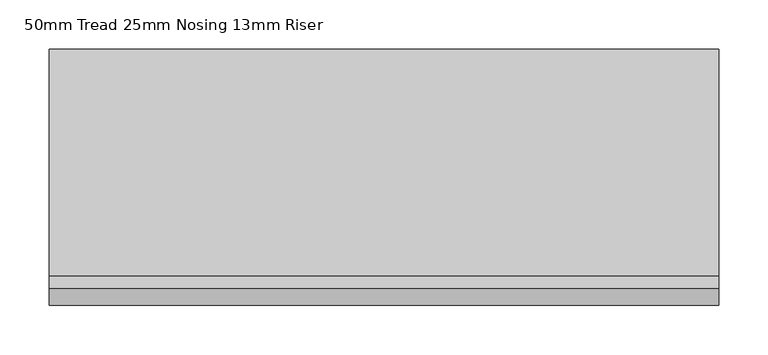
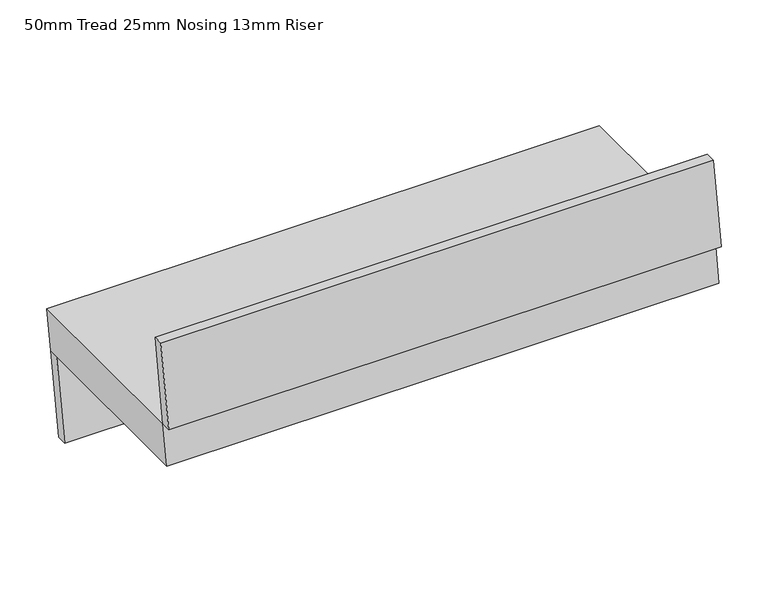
"""IFC4 building model written with IfcOpenShell, lengths in millimetres: stair flight geometry, 50mm Tread 25mm Nosing 13mm Riser."""

from ifc_helpers import new_model, si_unit, frame, origin, place, context, project, spatial, polyline, outline, extrude, source, transform, mapped, element, save


def stair_flight_50mm_tread_25mm_nosing_13mm_riser_fec5b2e2(model_context):
    return source(origin(), model_context, "Body", "SweptSolid", [
        extrude(outline(polyline([(-2888.85, 609.6), (-2641.6, 609.6), (-2649.8020997, 559.6), (-2897.0520997, 559.6), (-2888.85, 609.6)])), frame((1270.0, 0.0, 0.0), z_axis=(1.0, 0.0, 0.0), x_axis=(0.0, 1.0, 0.0)), (0.0, 0.0, 1.0), 679.45),
        extrude(outline(polyline([(-2649.8020997, 559.6), (-2666.6, 457.2), (-2679.2670696, 457.2), (-2662.4691693, 559.6), (-2649.8020997, 559.6)])), frame((1270.0, 0.0, 0.0), z_axis=(1.0, 0.0, 0.0), x_axis=(0.0, 1.0, 0.0)), (0.0, 0.0, 1.0), 679.45),
        extrude(outline(polyline([(-2872.0520997, 712.0), (-2888.85, 609.6), (-2901.5170696, 609.6), (-2884.7191693, 712.0), (-2872.0520997, 712.0)])), frame((1270.0, 0.0, 0.0), z_axis=(1.0, 0.0, 0.0), x_axis=(0.0, 1.0, 0.0)), (0.0, 0.0, 1.0), 679.45),
    ])


if __name__ == "__main__":
    model = new_model("IFC4")
    model_context = context("Model", 3, world=origin())
    ifc_project = project(units=[si_unit("LENGTHUNIT", "METRE", prefix="MILLI")], contexts=[model_context])
    site = spatial("IfcSite", under=ifc_project)
    building = spatial("IfcBuilding", under=site)
    placement = place(None, origin())
    stair_flight_50mm_tread_25mm_nosing_13mm_riser_shape = stair_flight_50mm_tread_25mm_nosing_13mm_riser_fec5b2e2(model_context)
    element("IfcStairFlight", 1, ObjectType="50mm Tread 25mm Nosing 13mm Riser", at=placement, inside=building, context=model_context, shape_type="MappedRepresentation", body=[
        mapped(stair_flight_50mm_tread_25mm_nosing_13mm_riser_shape, transform((0.0, 0.0, 0.0), x_axis=(1.0, 0.0, 0.0), y_axis=(0.0, 1.0, 0.0), z_axis=(0.0, 0.0, 1.0))),
    ])
    save(model, "model.ifc")
